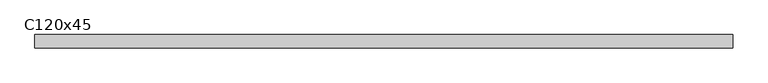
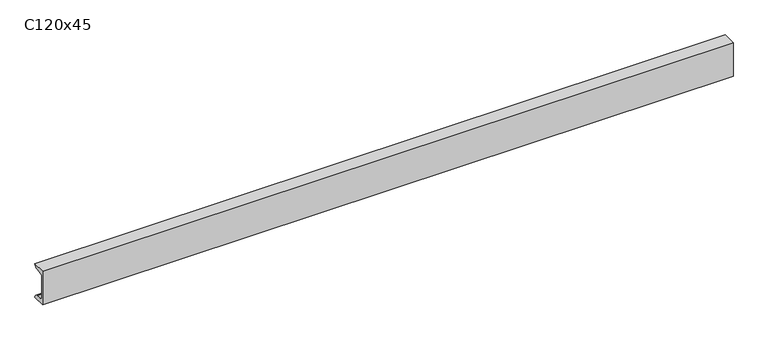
"""IFC4 building model written with IfcOpenShell, lengths in millimetres: beam geometry, M_C-Channel_305x105 : C120x45."""

from ifc_helpers import new_model, si_unit, point, frame, frame_2d, origin, place, context, project, spatial, polyline, circle_curve, trimmed, segment, composite_curve, outline, extrude, source, transform, mapped, element, save


def c120x45_5c9b4daa(model_context):
    return source(origin(), model_context, "Body", "SweptSolid", [
        extrude(outline(composite_curve([segment(polyline([(-16.8909985, 60.0), (28.1090015, 60.0)]), True, "CONTINUOUS"), segment(trimmed(circle_curve(frame_2d((15.4090015, 60.0)), 12.7), [point((28.1090015, 60.0))], [point((15.4090015, 47.3))], False, "CARTESIAN"), True, "CONTINUOUS"), segment(polyline([(15.4090015, 47.3), (-11.8909985, 42.9761048), (-11.8909985, -42.9761048), (15.4090015, -47.3)]), True, "CONTINUOUS"), segment(trimmed(circle_curve(frame_2d((15.4090015, -60.0)), 12.7), [point((15.4090015, -47.3))], [point((28.1090015, -60.0))], False, "CARTESIAN"), True, "CONTINUOUS"), segment(polyline([(28.1090015, -60.0), (-16.8909985, -60.0), (-16.8909985, 60.0)]), True, "CONTINUOUS")], self_intersect=False)), frame((-1156.8, 0.0, 0.0), z_axis=(1.0, 0.0, 0.0), x_axis=(0.0, 1.0, 0.0)), (0.0, 0.0, 1.0), 2326.3),
    ])


if __name__ == "__main__":
    model = new_model("IFC4")
    model_context = context("Model", 3, world=origin())
    ifc_project = project(units=[si_unit("LENGTHUNIT", "METRE", prefix="MILLI")], contexts=[model_context])
    site = spatial("IfcSite", under=ifc_project)
    building = spatial("IfcBuilding", under=site)
    placement = place(None, origin())
    c120x45_shape = c120x45_5c9b4daa(model_context)
    element("IfcBeam", 1, ObjectType="M_C-Channel_305x105 : C120x45", at=placement, inside=building, context=model_context, shape_type="MappedRepresentation", body=[
        mapped(c120x45_shape, transform((0.0, 0.0, 0.0), x_axis=(1.0, 0.0, 0.0), y_axis=(0.0, 1.0, 0.0), z_axis=(0.0, 0.0, 1.0))),
    ])
    save(model, "model.ifc")
